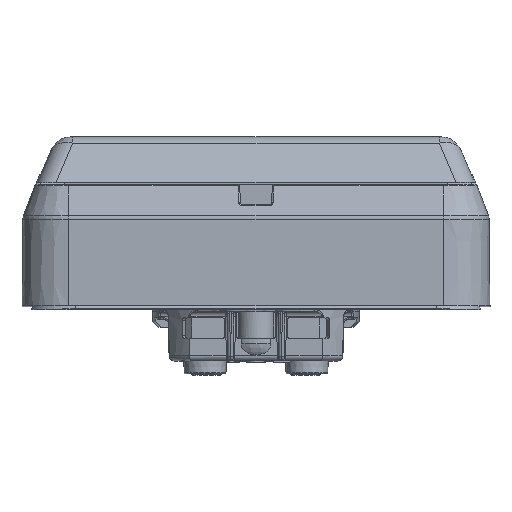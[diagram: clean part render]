
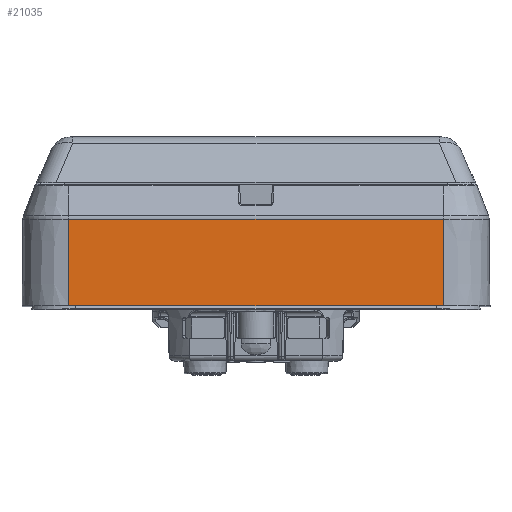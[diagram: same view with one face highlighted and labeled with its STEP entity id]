
A CAD part, top view. The second image highlights one B-rep face of the part: STEP entity #21035.
In plain terms, the highlighted planar face has unit normal (0, 0.009, 1).
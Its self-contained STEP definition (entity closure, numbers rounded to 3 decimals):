
#1181=DIRECTION('',(1.,0.,0.));
#1182=VECTOR('',#1181,72.);
#1183=CARTESIAN_POINT('',(-36.,-1.6,46.5));
#1184=LINE('1194',#1183,#1182);
#1249=DIRECTION('',(0.,-1.,0.009));
#1250=VECTOR('',#1249,16.639);
#1251=CARTESIAN_POINT('',(36.,15.038,46.355));
#1252=LINE('1211',#1251,#1250);
#1253=DIRECTION('',(-1.,0.,0.));
#1254=VECTOR('',#1253,72.);
#1255=CARTESIAN_POINT('',(36.,15.038,46.355));
#1256=LINE('1200',#1255,#1254);
#1257=DIRECTION('',(0.,-1.,0.009));
#1258=VECTOR('',#1257,16.639);
#1259=CARTESIAN_POINT('',(-36.,15.038,46.355));
#1260=LINE('1210',#1259,#1258);
#15877=CARTESIAN_POINT('',(-36.,-1.6,46.5));
#15878=VERTEX_POINT('',#15877);
#15879=CARTESIAN_POINT('',(36.,-1.6,46.5));
#15880=VERTEX_POINT('',#15879);
#15889=CARTESIAN_POINT('',(36.,15.038,46.355));
#15890=VERTEX_POINT('',#15889);
#15893=CARTESIAN_POINT('',(-36.,15.038,
46.355));
#15894=VERTEX_POINT('',#15893);
#21022=CARTESIAN_POINT('',(-36.,15.4,46.352));
#21023=DIRECTION('',(0.,0.009,1.));
#21024=DIRECTION('',(0.,-1.,0.009));
#21025=AXIS2_PLACEMENT_3D('',#21022,#21023,#21024);
#21026=PLANE('54',#21025);
#21028=ORIENTED_EDGE('1200',*,*,#21027,.F.);
#21029=ORIENTED_EDGE('1211',*,*,#21005,.T.);
#21030=ORIENTED_EDGE('1194',*,*,#20880,.F.);
#21032=ORIENTED_EDGE('1210',*,*,#21031,.F.);
#21033=EDGE_LOOP('54',(#21028,#21029,#21030,#21032));
#21034=FACE_OUTER_BOUND('54',#21033,.F.);
#20880=EDGE_CURVE('1194',#15878,#15880,#1184,.T.);
#21005=EDGE_CURVE('1211',#15890,#15880,#1252,.T.);
#21027=EDGE_CURVE('1200',#15890,#15894,#1256,.T.);
#21031=EDGE_CURVE('1210',#15894,#15878,#1260,.T.);
#21035=ADVANCED_FACE('54',(#21034),#21026,.T.);
